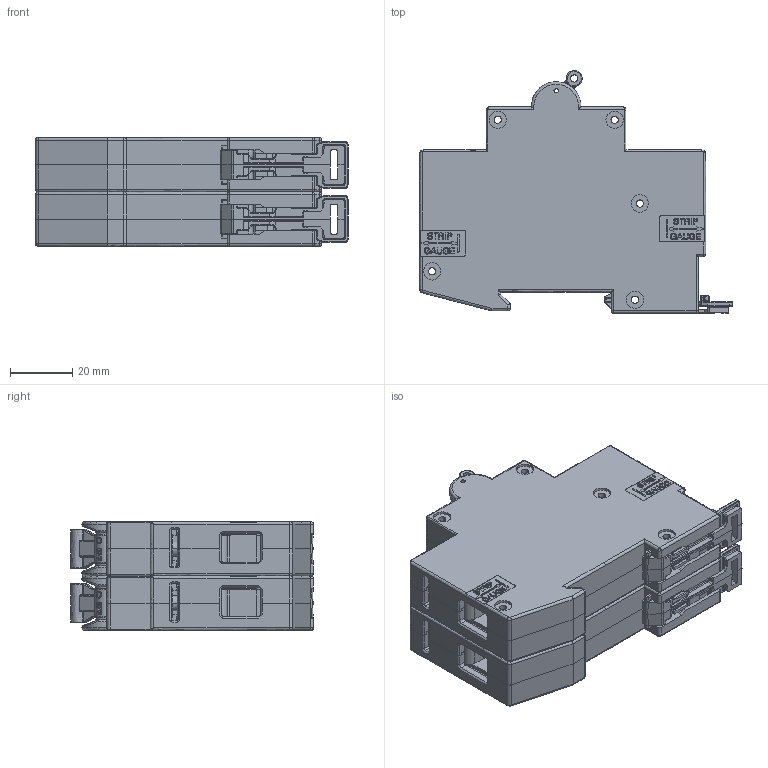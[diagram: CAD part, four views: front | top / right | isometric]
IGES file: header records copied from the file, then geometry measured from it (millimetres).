
Global section: file name: No Iges File Name specified; native system: Autodesk Inventor 2011; preprocessor: AutoDesk Inventor Iges Exporter R2011; author: oey; date: 20110218.125106; units: inch
Bounding box: 100.66 x 78.17 x 34.95 mm (x, y, z)
Surface area: 72459.9 mm2 (no closed solid volume)
Topology: 0 solids, 0 shells, 4930 faces, 29838 edges, 29807 vertices
Faces by surface type: plane 2939, revolution 1585, bspline 406
